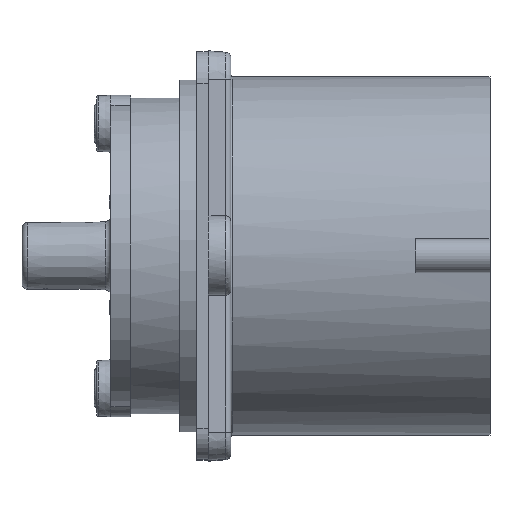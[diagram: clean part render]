
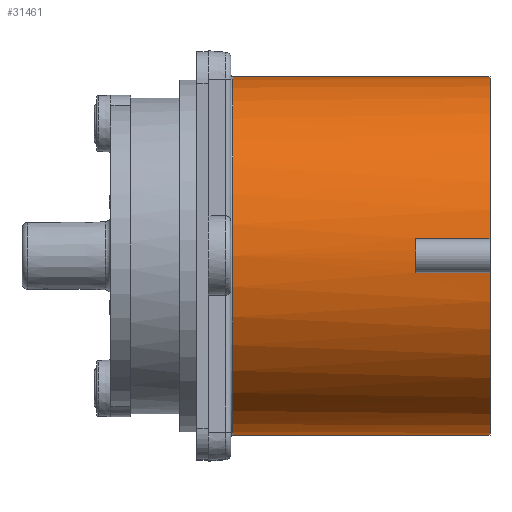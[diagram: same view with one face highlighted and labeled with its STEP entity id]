
A CAD part, top view. The second image highlights one B-rep face of the part: STEP entity #31461.
In plain terms, the highlighted cylindrical face has radius 31.45 mm (diameter 62.9 mm), a partial arc.
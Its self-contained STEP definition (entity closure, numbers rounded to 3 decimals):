
#11679=DIRECTION('',(1.,0.,0.));
#11680=VECTOR('',#11679,45.2);
#11681=CARTESIAN_POINT('',(4.3,-31.45,0.));
#11682=LINE('896',#11681,#11680);
#11768=CARTESIAN_POINT('',(4.3,0.,0.));
#11769=DIRECTION('',(1.,0.,0.));
#11770=DIRECTION('',(0.,1.,0.));
#11771=AXIS2_PLACEMENT_3D('',#11768,#11769,#11770);
#11776=DIRECTION('',(1.,0.,0.));
#11777=VECTOR('',#11776,45.2);
#11778=CARTESIAN_POINT('',(4.3,31.45,0.));
#11779=LINE('897',#11778,#11777);
#11783=DIRECTION('',(1.,0.,0.));
#11784=VECTOR('',#11783,13.);
#11785=CARTESIAN_POINT('',(36.5,3.,31.307));
#11786=LINE('721',#11785,#11784);
#11790=CARTESIAN_POINT('',(36.5,0.,0.));
#11791=DIRECTION('',(1.,0.,0.));
#11792=DIRECTION('',(0.,0.095,0.995));
#11793=AXIS2_PLACEMENT_3D('',#11790,#11791,#11792);
#11798=DIRECTION('',(1.,0.,0.));
#11799=VECTOR('',#11798,13.);
#11800=CARTESIAN_POINT('',(36.5,-3.,31.307));
#11801=LINE('720',#11800,#11799);
#11805=CARTESIAN_POINT('',(49.5,0.,0.));
#11806=DIRECTION('',(1.,0.,0.));
#11807=DIRECTION('',(0.,-0.095,0.995));
#11808=AXIS2_PLACEMENT_3D('',#11805,#11806,#11807);
#11835=CARTESIAN_POINT('',(49.5,0.,0.));
#11836=DIRECTION('',(1.,0.,0.));
#11837=DIRECTION('',(0.,1.,0.));
#11838=AXIS2_PLACEMENT_3D('',#11835,#11836,#11837);
#13315=CARTESIAN_POINT('',(49.5,-31.45,0.));
#13316=CARTESIAN_POINT('',(49.5,31.45,0.));
#13317=VERTEX_POINT('',#13315);
#13318=VERTEX_POINT('',#13316);
#13331=CARTESIAN_POINT('',(36.5,3.,31.307));
#13332=CARTESIAN_POINT('',(36.5,-3.,31.307));
#13333=VERTEX_POINT('',#13331);
#13334=VERTEX_POINT('',#13332);
#13335=CARTESIAN_POINT('',(49.5,-3.,31.307));
#13336=VERTEX_POINT('',#13335);
#13337=CARTESIAN_POINT('',(49.5,3.,31.307));
#13338=VERTEX_POINT('',#13337);
#13553=CARTESIAN_POINT('',(4.3,31.45,0.));
#13554=CARTESIAN_POINT('',(4.3,-31.45,0.));
#13555=VERTEX_POINT('',#13553);
#13556=VERTEX_POINT('',#13554);
#31441=CARTESIAN_POINT('',(4.,0.,0.));
#31442=DIRECTION('',(1.,0.,0.));
#31443=DIRECTION('',(0.,-1.,0.));
#31444=AXIS2_PLACEMENT_3D('',#31441,#31442,#31443);
#31445=CYLINDRICAL_SURFACE('41',#31444,31.45);
#31446=ORIENTED_EDGE('889',*,*,#31352,.F.);
#31447=ORIENTED_EDGE('897',*,*,#31406,.T.);
#31449=ORIENTED_EDGE('722',*,*,#31448,.T.);
#31451=ORIENTED_EDGE('721',*,*,#31450,.F.);
#31453=ORIENTED_EDGE('719',*,*,#31452,.T.);
#31455=ORIENTED_EDGE('720',*,*,#31454,.T.);
#31457=ORIENTED_EDGE('723',*,*,#31456,.T.);
#31458=ORIENTED_EDGE('896',*,*,#31402,.F.);
#31459=EDGE_LOOP('41',(#31446,#31447,#31449,#31451,#31453,#31455,#31457,
#31458));
#31460=FACE_OUTER_BOUND('41',#31459,.F.);
#11772=CIRCLE('889',#11771,31.45);
#11794=CIRCLE('719',#11793,31.45);
#11809=CIRCLE('723',#11808,31.45);
#11839=CIRCLE('722',#11838,31.45);
#31352=EDGE_CURVE('889',#13555,#13556,#11772,.T.);
#31402=EDGE_CURVE('896',#13556,#13317,#11682,.T.);
#31406=EDGE_CURVE('897',#13555,#13318,#11779,.T.);
#31448=EDGE_CURVE('722',#13318,#13338,#11839,.T.);
#31450=EDGE_CURVE('721',#13333,#13338,#11786,.T.);
#31452=EDGE_CURVE('719',#13333,#13334,#11794,.T.);
#31454=EDGE_CURVE('720',#13334,#13336,#11801,.T.);
#31456=EDGE_CURVE('723',#13336,#13317,#11809,.T.);
#31461=ADVANCED_FACE('41',(#31460),#31445,.T.);
